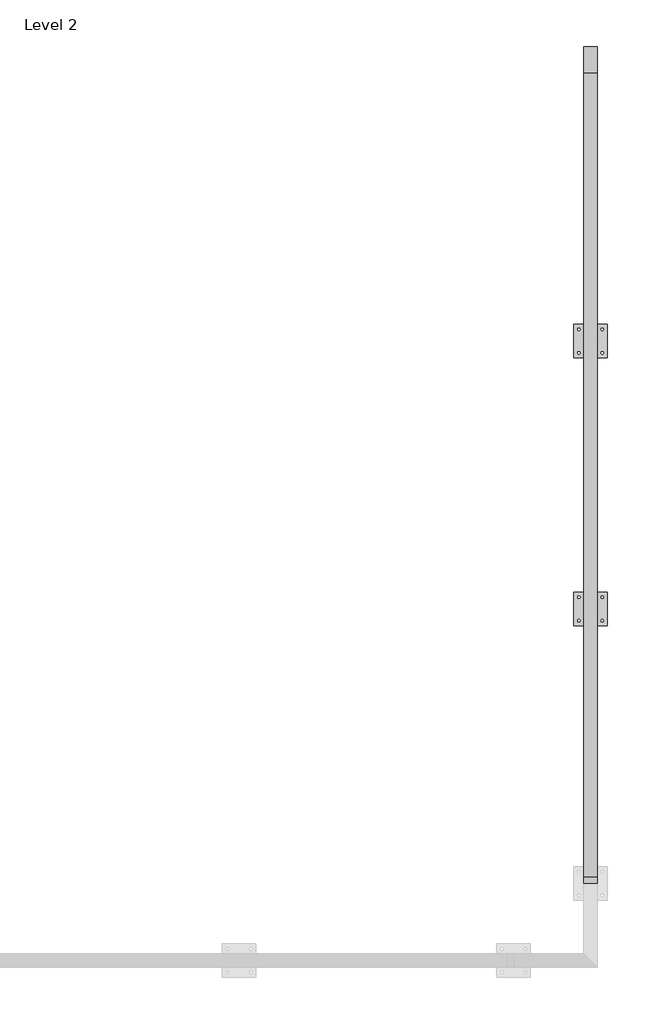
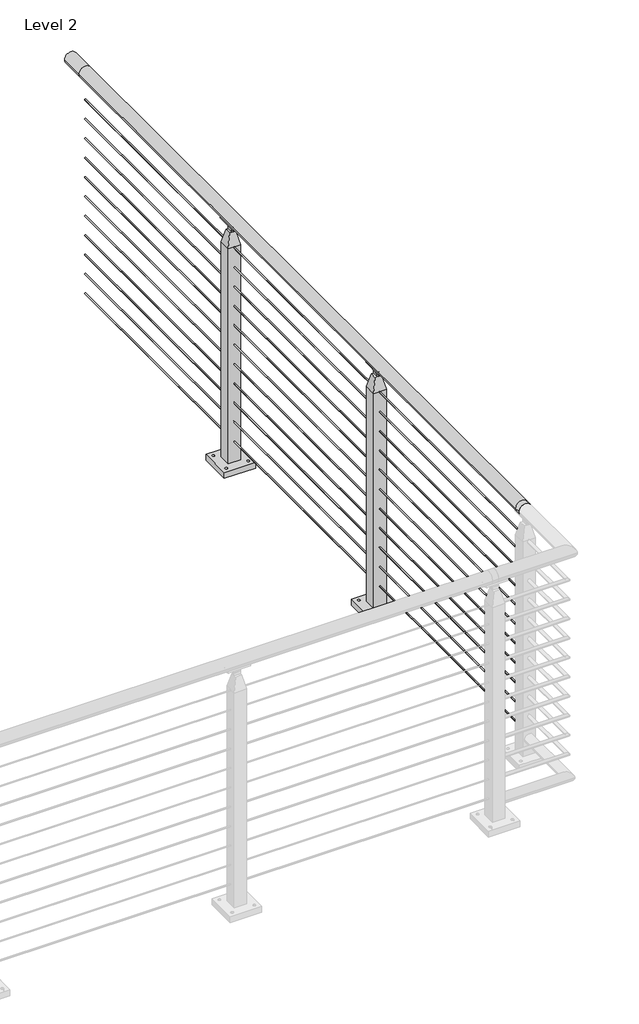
# One storey, part 10 of 17: 1 railing.
"""IFC4 building model written with IfcOpenShell, lengths in millimetres."""

import ifcopenshell
import ifcopenshell.guid

model = None  # the IFC model being written
_history = None  # IfcOwnerHistory: only IFC2X3 demands one
_inside = {}  # id of a spatial element -> (the spatial element, [elements in it])
_under = {}  # id of a project, library or spatial element -> (it, [spatial elements below it])
_declared = {}  # id of a project -> (the project, [libraries it declares])
_typed = {}  # id of a type object -> (the type object, [elements of that type])
_made_of = {}  # id of a material, layer set ... -> (it, [elements and type objects made of it])


def new_model(schema):
    """Start an empty IFC model of exactly this schema.

    Asked for "IFC4X3", IfcOpenShell would pick the latest addendum, in which some entities
    have other attributes; the version numbers below select the first issue.
    IFC2X3 requires an IfcOwnerHistory on every rooted entity: one is made here for all.
    """
    global model, _history
    if schema == "IFC4X3":
        model = ifcopenshell.file(schema_version=(4, 3, 0, 0))
    else:
        model = ifcopenshell.file(schema=schema)
    _inside.clear()
    _under.clear()
    _declared.clear()
    _typed.clear()
    _made_of.clear()
    _history = None
    if model.schema == "IFC2X3":
        org = make("IfcOrganization", Name="unknown")
        user = make(
            "IfcPersonAndOrganization",
            ThePerson=make("IfcPerson", FamilyName="unknown"),
            TheOrganization=org,
        )
        app = make(
            "IfcApplication",
            ApplicationDeveloper=org,
            Version="unknown",
            ApplicationFullName="unknown",
            ApplicationIdentifier="unknown",
        )
        _history = make(
            "IfcOwnerHistory",
            OwningUser=user,
            OwningApplication=app,
            ChangeAction="ADDED",
            CreationDate=0,
        )
    return model


def make(cls, **values):
    """One entity of the class cls with the attributes given. An attribute that is None is left unset."""
    return model.create_entity(
        cls, **{name: value for name, value in values.items() if value is not None}
    )


def rooted(cls, **values):
    """An entity with a GlobalId (a new one), such as an element, a storey or a relation."""
    return make(cls, GlobalId=ifcopenshell.guid.new(), OwnerHistory=_history, **values)


def si_unit(unit_type, name, prefix=None):
    """IfcSIUnit, for example si_unit("LENGTHUNIT", "METRE", prefix="MILLI")."""
    return make("IfcSIUnit", UnitType=unit_type, Prefix=prefix, Name=name)


def assignment(units):
    """IfcUnitAssignment: the units of a project."""
    return None if units is None else make("IfcUnitAssignment", Units=units)


def point(xyz):
    """IfcCartesianPoint."""
    return None if xyz is None else make("IfcCartesianPoint", Coordinates=xyz)


def direction(xyz):
    """IfcDirection."""
    return None if xyz is None else make("IfcDirection", DirectionRatios=xyz)


def frame(location, z_axis=None, x_axis=None):
    """IfcAxis2Placement3D, a coordinate frame: its origin and axes. An axis left out is left unset."""
    return make(
        "IfcAxis2Placement3D",
        Location=point(location),
        Axis=direction(z_axis),
        RefDirection=direction(x_axis),
    )


def frame_2d(location, x_axis=None):
    """IfcAxis2Placement2D, a coordinate frame in the plane: its origin and x axis."""
    return make(
        "IfcAxis2Placement2D", Location=point(location), RefDirection=direction(x_axis)
    )


def origin():
    """The frame at (0, 0, 0) with its axes left unset."""
    return frame((0.0, 0.0, 0.0))


def place(relative_to, where):
    """IfcLocalPlacement: puts the frame where relative to a parent placement (None: the world)."""
    return make(
        "IfcLocalPlacement", PlacementRelTo=relative_to, RelativePlacement=where
    )


def context(
    kind, dimensions, precision=None, world=None, true_north=None, identifier=None
):
    """IfcGeometricRepresentationContext, for example the 3D "Model" context."""
    return make(
        "IfcGeometricRepresentationContext",
        ContextIdentifier=identifier,
        ContextType=kind,
        CoordinateSpaceDimension=dimensions,
        Precision=precision,
        WorldCoordinateSystem=world,
        TrueNorth=true_north,
    )


def project(units=None, contexts=None):
    """IfcProject with its units and contexts."""
    return rooted(
        "IfcProject",
        Name="project",
        RepresentationContexts=contexts,
        UnitsInContext=assignment(units),
    )


def spatial(cls, under=None, at=None, **own):
    """A site, building, storey or space (cls), placed at a placement, below another one or the project."""
    s = rooted(cls, ObjectPlacement=at, **own)
    if under is not None:
        _under.setdefault(under.id(), (under, []))[1].append(s)
    return s


def polyline(points):
    """IfcPolyline through the points."""
    return make("IfcPolyline", Points=[point(p) for p in points])


def circle_curve(where, radius):
    """IfcCircle in the frame where."""
    return make("IfcCircle", Position=where, Radius=radius)


def trimmed(basis, trim1, trim2, sense, master):
    """IfcTrimmedCurve: the piece of a basis curve between two trims."""
    return make(
        "IfcTrimmedCurve",
        BasisCurve=basis,
        Trim1=trim1,
        Trim2=trim2,
        SenseAgreement=sense,
        MasterRepresentation=master,
    )


def segment(curve, same_sense, transition):
    """IfcCompositeCurveSegment."""
    return make(
        "IfcCompositeCurveSegment",
        Transition=transition,
        SameSense=same_sense,
        ParentCurve=curve,
    )


def composite_curve(segments, self_intersect=None):
    """IfcCompositeCurve: segments joined end to end."""
    return make("IfcCompositeCurve", Segments=segments, SelfIntersect=self_intersect)


def outline(outer, holes=None, kind="AREA"):
    """IfcArbitraryClosedProfileDef: a profile drawn as a closed curve; with holes, ...WithVoids."""
    if holes is None:
        return make("IfcArbitraryClosedProfileDef", ProfileType=kind, OuterCurve=outer)
    return make(
        "IfcArbitraryProfileDefWithVoids",
        ProfileType=kind,
        OuterCurve=outer,
        InnerCurves=holes,
    )


def extrude(swept, where, along, depth):
    """IfcExtrudedAreaSolid: the profile swept, set in the frame where, extruded along a direction by depth."""
    return make(
        "IfcExtrudedAreaSolid",
        SweptArea=swept,
        Position=where,
        ExtrudedDirection=direction(along),
        Depth=depth,
    )


def faces_of(points, faces, orient=None, outer=None):
    """IfcFace entities. A face is a list of loops; a loop is a list of indices into points, from 0.

    orient and outer hold one flag for each loop. By default every Orientation is true, the
    first loop of a face is its IfcFaceOuterBound and the others are IfcFaceBound.
    """
    made = []
    for i, loops in enumerate(faces):
        bounds = []
        for j, loop in enumerate(loops):
            is_outer = j == 0 if outer is None else outer[i][j]
            bounds.append(
                make(
                    "IfcFaceOuterBound" if is_outer else "IfcFaceBound",
                    Bound=make("IfcPolyLoop", Polygon=[points[k] for k in loop]),
                    Orientation=True if orient is None else orient[i][j],
                )
            )
        made.append(make("IfcFace", Bounds=bounds))
    return made


def faceted_brep(points, faces, orient=None, outer=None, voids=None):
    """IfcFacetedBrep: a solid bounded by flat faces; with voids (closed shells), ...WithVoids."""
    shared = [point(p) for p in points]
    hull = make("IfcClosedShell", CfsFaces=faces_of(shared, faces, orient, outer))
    if voids is None:
        return make("IfcFacetedBrep", Outer=hull)
    return make(
        "IfcFacetedBrepWithVoids",
        Outer=hull,
        Voids=[
            make(cls, CfsFaces=faces_of(shared, fs, o, b)) for cls, fs, o, b in voids
        ],
    )


def shape(context_of_items, identifier, shape_type, items):
    """IfcShapeRepresentation: the items that make up one representation, for example the "Body"."""
    return make(
        "IfcShapeRepresentation",
        ContextOfItems=context_of_items,
        RepresentationIdentifier=identifier,
        RepresentationType=shape_type,
        Items=items,
    )


def made_of(thing, what):
    """Note that an element or type object is made of a material, layer set ...; save() writes the relation."""
    if what is not None:
        _made_of.setdefault(what.id(), (what, []))[1].append(thing)
    return thing


def element(
    cls,
    number,
    at=None,
    inside=None,
    cuts=None,
    type_object=None,
    material=None,
    context=None,
    identifier="Body",
    shape_type=None,
    held_by="IfcProductDefinitionShape",
    body=None,
    shapes=None,
    **own,
):
    """One element of the class cls, such as IfcWall. Its Tag is "e" and its number.

    at: its placement. inside: the storey or other place that contains it. cuts: it is an
    opening in that element (IfcRelVoidsElement). A single representation is given by context,
    identifier, shape_type and body (its items); several are given by shapes. held_by: the class
    of the entity that holds the representations. save() writes the other relations.
    """
    e = rooted(cls, Tag="e%d" % number, ObjectPlacement=at, **own)
    if body is not None:
        shapes = [shape(context, identifier, shape_type, body)]
    if shapes is not None:
        e.Representation = make(held_by, Representations=shapes)
    if inside is not None:
        _inside.setdefault(inside.id(), (inside, []))[1].append(e)
    if cuts is not None:
        rooted(
            "IfcRelVoidsElement", RelatingBuildingElement=cuts, RelatedOpeningElement=e
        )
    if type_object is not None:
        _typed.setdefault(type_object.id(), (type_object, []))[1].append(e)
    return made_of(e, material)


def aggregate(whole, parts):
    """IfcRelAggregates: a whole, such as a stair, and the parts it consists of."""
    return rooted("IfcRelAggregates", RelatingObject=whole, RelatedObjects=parts)


def save(model, path):
    """Write the relations noted so far, then the file.

    IfcRelAggregates (storeys below a building ...), IfcRelContainedInSpatialStructure (elements
    in a storey), IfcRelDefinesByType, IfcRelAssociatesMaterial and IfcRelDeclares: one each for
    every whole, place, type object, material and project.
    """
    for whole, parts in _under.values():
        aggregate(whole, parts)
    for where, things in _inside.values():
        rooted(
            "IfcRelContainedInSpatialStructure",
            RelatedElements=things,
            RelatingStructure=where,
        )
    for kind, things in _typed.values():
        rooted("IfcRelDefinesByType", RelatedObjects=things, RelatingType=kind)
    for what, things in _made_of.values():
        rooted("IfcRelAssociatesMaterial", RelatedObjects=things, RelatingMaterial=what)
    for by, libraries in _declared.values():
        rooted("IfcRelDeclares", RelatingContext=by, RelatedDefinitions=libraries)
    model.write(path)


def plane_surface(at):
    """IfcPlane: the flat surface through the origin of the frame at, square to its z axis."""
    return make("IfcPlane", Position=at)


def cylinder_surface(at, radius):
    """IfcCylindricalSurface: all points at the distance radius from the z axis of the frame at."""
    return make("IfcCylindricalSurface", Position=at, Radius=radius)


def revolved_surface(curve, axis_point, axis_direction):
    """IfcSurfaceOfRevolution: the curve turned about the line through axis_point along axis_direction."""
    return make(
        "IfcSurfaceOfRevolution",
        SweptCurve=make("IfcArbitraryOpenProfileDef", ProfileType="CURVE", Curve=curve),
        AxisPosition=make("IfcAxis1Placement", Location=point(axis_point), Axis=direction(axis_direction)),
    )


def advanced_brep(points, edges, surfaces, faces):
    """IfcAdvancedBrep: a solid bounded by faces that lie on surfaces and meet in shared edges.

    An edge is (start, end): straight between two places in points (the first is 0);
    or (start, end, curve); or (start, end, curve, False) where it runs against its curve.
    A face is (place in surfaces, loops), or (place, loops, False) where it looks against
    its surface's normal. A loop lists edges by number (the first is 1), with a minus sign
    where the edge is run from its end to its start. The first loop is the outer one.
    """
    corners = [point(p) for p in points]
    vertices = [make("IfcVertexPoint", VertexGeometry=c) for c in corners]
    made = []
    for start, end, *more in edges:
        made.append(
            make(
                "IfcEdgeCurve",
                EdgeStart=vertices[start],
                EdgeEnd=vertices[end],
                EdgeGeometry=more[0] if more else make("IfcPolyline", Points=[corners[start], corners[end]]),
                SameSense=more[1] if len(more) > 1 else True,
            )
        )
    hull = []
    for where, loops, *sense in faces:
        bounds = []
        for j, loop in enumerate(loops):
            ring = [make("IfcOrientedEdge", EdgeElement=made[abs(k) - 1], Orientation=k > 0) for k in loop]
            bounds.append(
                make(
                    "IfcFaceOuterBound" if j == 0 else "IfcFaceBound",
                    Bound=make("IfcEdgeLoop", EdgeList=ring),
                    Orientation=True,
                )
            )
        hull.append(make("IfcAdvancedFace", Bounds=bounds, FaceSurface=surfaces[where], SameSense=sense[0] if sense else True))
    return make("IfcAdvancedBrep", Outer=make("IfcClosedShell", CfsFaces=hull))


model = new_model("IFC4")

# Units and contexts
model_context = context("Model", 3, world=origin())
ifc_project = project(units=[si_unit("LENGTHUNIT", "METRE", prefix="MILLI")], contexts=[model_context])

# Site, building, storey
site = spatial("IfcSite", under=ifc_project)
building = spatial("IfcBuilding", under=site)
storey = spatial("IfcBuildingStorey", under=building, Name="Level 2", Elevation=3048.0)

# Railing
placement = place(None, origin())
element("IfcRailing", 1, ObjectType="VIVA-CUBE-Cable-Floor Mount-Straight", at=placement, inside=storey, context=model_context, shape_type="SolidModel", body=[
    advanced_brep(
    [(20884.4199014, -51786.8457415, 4102.1), (20935.2199014, -51786.8457415, 4102.1), (20935.2199014, -48738.8457415, 4102.1), (20884.4199014, -48738.8457415, 4102.1), (20935.2199014, -51812.6426165, 4102.1), (20884.4199014, -51812.6426165, 4102.1), (20935.2199014, -48637.2457415, 4102.1), (20884.4199014, -48637.2457415, 4102.1)],
    [
        (0, 1, circle_curve(frame((20909.8199014, -51786.8457415, 4102.1), z_axis=(0.0, 1.0, 0.0), x_axis=(-1.0, 0.0, 0.0)), 25.4)),
        (1, 2),
        (2, 3, circle_curve(frame((20909.8199014, -48738.8457415, 4102.1), z_axis=(0.0, -1.0, 0.0), x_axis=(-1.0, 0.0, 0.0)), 25.4)),
        (3, 0),
        (1, 0, circle_curve(frame((20909.8199014, -51786.8457415, 4102.1), z_axis=(0.0, 1.0, 0.0), x_axis=(-1.0, 0.0, 0.0)), 25.4)),
        (3, 2, circle_curve(frame((20909.8199014, -48738.8457415, 4102.1), z_axis=(0.0, -1.0, 0.0), x_axis=(-1.0, 0.0, 0.0)), 25.4)),
        (4, 5, circle_curve(frame((20909.8199014, -51812.6426165, 4102.1), z_axis=(0.0, -1.0, 0.0), x_axis=(-1.0, 0.0, 0.0)), 25.4)),
        (5, 4, circle_curve(frame((20909.8199014, -51812.6426165, 4102.1), z_axis=(0.0, -1.0, 0.0), x_axis=(-1.0, 0.0, 0.0)), 25.4)),
        (4, 1),
        (0, 5),
        (6, 7, circle_curve(frame((20909.8199014, -48637.2457415, 4102.1), z_axis=(0.0, 1.0, 0.0), x_axis=(-1.0, 0.0, 0.0)), 25.4)),
        (7, 6, circle_curve(frame((20909.8199014, -48637.2457415, 4102.1), z_axis=(0.0, 1.0, 0.0), x_axis=(-1.0, 0.0, 0.0)), 25.4)),
        (2, 6),
        (7, 3),
    ],
    [
        cylinder_surface(frame((20909.8199014, -51786.8457415, 4102.1), z_axis=(0.0, -1.0, 0.0), x_axis=(-1.0, 0.0, 0.0)), 25.4),
        plane_surface(frame((20909.8199014, -51812.6426165, 4127.5), z_axis=(0.0, -1.0, 0.0), x_axis=(0.0, 0.0, 1.0))),
        cylinder_surface(frame((20909.8199014, -51812.6426165, 4102.1), z_axis=(0.0, -1.0, 0.0), x_axis=(-1.0, 0.0, 0.0)), 25.4),
        plane_surface(frame((20909.8199014, -48637.2457415, 4127.5), z_axis=(0.0, 1.0, 0.0), x_axis=(0.0, 0.0, 1.0))),
        cylinder_surface(frame((20909.8199014, -48738.8457415, 4102.1), z_axis=(0.0, -1.0, 0.0), x_axis=(-1.0, 0.0, 0.0)), 25.4),
    ],
    [
        (0, [[1, 2, 3, 4]]),
        (0, [[5, -4, 6, -2]]),
        (1, [[7, 8]]),
        (2, [[-7, 9, -1, 10]]),
        (2, [[-8, -10, -5, -9]]),
        (3, [[11, 12]]),
        (4, [[-3, 13, -12, 14]]),
        (4, [[-6, -14, -11, -13]]),
    ],
),
    extrude(outline(composite_curve([segment(trimmed(circle_curve(frame_2d((3985.4124, 20909.8199014)), 2.3876), [point((3985.4124, 20907.4323014))], [point((3985.4124, 20912.2075014))], False, "CARTESIAN"), True, "CONTINUOUS"), segment(trimmed(circle_curve(frame_2d((3985.4124, 20909.8199014)), 2.3876), [point((3985.4124, 20912.2075014))], [point((3985.4124, 20907.4323014))], False, "CARTESIAN"), True, "CONTINUOUS")], self_intersect=False)), frame((0.0, -51786.8457415, 0.0), z_axis=(0.0, 1.0, 0.0), x_axis=(0.0, 0.0, 1.0)), (0.0, 0.0, 1.0), 3048.0),
    extrude(outline(composite_curve([segment(trimmed(circle_curve(frame_2d((3902.8624, 20909.8199014)), 2.3876), [point((3902.8624, 20907.4323014))], [point((3902.8624, 20912.2075014))], False, "CARTESIAN"), True, "CONTINUOUS"), segment(trimmed(circle_curve(frame_2d((3902.8624, 20909.8199014)), 2.3876), [point((3902.8624, 20912.2075014))], [point((3902.8624, 20907.4323014))], False, "CARTESIAN"), True, "CONTINUOUS")], self_intersect=False)), frame((0.0, -51786.8457415, 0.0), z_axis=(0.0, 1.0, 0.0), x_axis=(0.0, 0.0, 1.0)), (0.0, 0.0, 1.0), 3048.0),
    extrude(outline(composite_curve([segment(trimmed(circle_curve(frame_2d((3820.3124, 20909.8199014)), 2.3876), [point((3820.3124, 20907.4323014))], [point((3820.3124, 20912.2075014))], False, "CARTESIAN"), True, "CONTINUOUS"), segment(trimmed(circle_curve(frame_2d((3820.3124, 20909.8199014)), 2.3876), [point((3820.3124, 20912.2075014))], [point((3820.3124, 20907.4323014))], False, "CARTESIAN"), True, "CONTINUOUS")], self_intersect=False)), frame((0.0, -51786.8457415, 0.0), z_axis=(0.0, 1.0, 0.0), x_axis=(0.0, 0.0, 1.0)), (0.0, 0.0, 1.0), 3048.0),
    extrude(outline(composite_curve([segment(trimmed(circle_curve(frame_2d((3737.7624, 20909.8199014)), 2.3876), [point((3737.7624, 20907.4323014))], [point((3737.7624, 20912.2075014))], False, "CARTESIAN"), True, "CONTINUOUS"), segment(trimmed(circle_curve(frame_2d((3737.7624, 20909.8199014)), 2.3876), [point((3737.7624, 20912.2075014))], [point((3737.7624, 20907.4323014))], False, "CARTESIAN"), True, "CONTINUOUS")], self_intersect=False)), frame((0.0, -51786.8457415, 0.0), z_axis=(0.0, 1.0, 0.0), x_axis=(0.0, 0.0, 1.0)), (0.0, 0.0, 1.0), 3048.0),
    extrude(outline(composite_curve([segment(trimmed(circle_curve(frame_2d((3655.2124, 20909.8199014)), 2.3876), [point((3655.2124, 20907.4323014))], [point((3655.2124, 20912.2075014))], False, "CARTESIAN"), True, "CONTINUOUS"), segment(trimmed(circle_curve(frame_2d((3655.2124, 20909.8199014)), 2.3876), [point((3655.2124, 20912.2075014))], [point((3655.2124, 20907.4323014))], False, "CARTESIAN"), True, "CONTINUOUS")], self_intersect=False)), frame((0.0, -51786.8457415, 0.0), z_axis=(0.0, 1.0, 0.0), x_axis=(0.0, 0.0, 1.0)), (0.0, 0.0, 1.0), 3048.0),
    extrude(outline(composite_curve([segment(trimmed(circle_curve(frame_2d((3572.6624, 20909.8199014)), 2.3876), [point((3572.6624, 20907.4323014))], [point((3572.6624, 20912.2075014))], False, "CARTESIAN"), True, "CONTINUOUS"), segment(trimmed(circle_curve(frame_2d((3572.6624, 20909.8199014)), 2.3876), [point((3572.6624, 20912.2075014))], [point((3572.6624, 20907.4323014))], False, "CARTESIAN"), True, "CONTINUOUS")], self_intersect=False)), frame((0.0, -51786.8457415, 0.0), z_axis=(0.0, 1.0, 0.0), x_axis=(0.0, 0.0, 1.0)), (0.0, 0.0, 1.0), 3048.0),
    extrude(outline(composite_curve([segment(trimmed(circle_curve(frame_2d((3490.1124, 20909.8199014)), 2.3876), [point((3490.1124, 20907.4323014))], [point((3490.1124, 20912.2075014))], False, "CARTESIAN"), True, "CONTINUOUS"), segment(trimmed(circle_curve(frame_2d((3490.1124, 20909.8199014)), 2.3876), [point((3490.1124, 20912.2075014))], [point((3490.1124, 20907.4323014))], False, "CARTESIAN"), True, "CONTINUOUS")], self_intersect=False)), frame((0.0, -51786.8457415, 0.0), z_axis=(0.0, 1.0, 0.0), x_axis=(0.0, 0.0, 1.0)), (0.0, 0.0, 1.0), 3048.0),
    extrude(outline(composite_curve([segment(trimmed(circle_curve(frame_2d((3407.5624, 20909.8199014)), 2.3876), [point((3407.5624, 20907.4323014))], [point((3407.5624, 20912.2075014))], False, "CARTESIAN"), True, "CONTINUOUS"), segment(trimmed(circle_curve(frame_2d((3407.5624, 20909.8199014)), 2.3876), [point((3407.5624, 20912.2075014))], [point((3407.5624, 20907.4323014))], False, "CARTESIAN"), True, "CONTINUOUS")], self_intersect=False)), frame((0.0, -51786.8457415, 0.0), z_axis=(0.0, 1.0, 0.0), x_axis=(0.0, 0.0, 1.0)), (0.0, 0.0, 1.0), 3048.0),
    extrude(outline(composite_curve([segment(trimmed(circle_curve(frame_2d((3325.0124, 20909.8199014)), 2.3876), [point((3325.0124, 20907.4323014))], [point((3325.0124, 20912.2075014))], False, "CARTESIAN"), True, "CONTINUOUS"), segment(trimmed(circle_curve(frame_2d((3325.0124, 20909.8199014)), 2.3876), [point((3325.0124, 20912.2075014))], [point((3325.0124, 20907.4323014))], False, "CARTESIAN"), True, "CONTINUOUS")], self_intersect=False)), frame((0.0, -51786.8457415, 0.0), z_axis=(0.0, 1.0, 0.0), x_axis=(0.0, 0.0, 1.0)), (0.0, 0.0, 1.0), 3048.0),
    extrude(outline(composite_curve([segment(trimmed(circle_curve(frame_2d((3242.4624, 20909.8199014)), 2.3876), [point((3242.4624, 20907.4323014))], [point((3242.4624, 20912.2075014))], False, "CARTESIAN"), True, "CONTINUOUS"), segment(trimmed(circle_curve(frame_2d((3242.4624, 20909.8199014)), 2.3876), [point((3242.4624, 20912.2075014))], [point((3242.4624, 20907.4323014))], False, "CARTESIAN"), True, "CONTINUOUS")], self_intersect=False)), frame((0.0, -51786.8457415, 0.0), z_axis=(0.0, 1.0, 0.0), x_axis=(0.0, 0.0, 1.0)), (0.0, 0.0, 1.0), 3048.0),
    extrude(outline(composite_curve([segment(trimmed(circle_curve(frame_2d((3159.9124, 20909.8199014)), 2.3876), [point((3159.9124, 20907.4323014))], [point((3159.9124, 20912.2075014))], False, "CARTESIAN"), True, "CONTINUOUS"), segment(trimmed(circle_curve(frame_2d((3159.9124, 20909.8199014)), 2.3876), [point((3159.9124, 20912.2075014))], [point((3159.9124, 20907.4323014))], False, "CARTESIAN"), True, "CONTINUOUS")], self_intersect=False)), frame((0.0, -51786.8457415, 0.0), z_axis=(0.0, 1.0, 0.0), x_axis=(0.0, 0.0, 1.0)), (0.0, 0.0, 1.0), 3048.0),
    extrude(outline(polyline([(20846.3199014, -49690.9488665), (20973.3199014, -49690.9488665), (20973.3199014, -49817.9488665), (20846.3199014, -49817.9488665), (20846.3199014, -49690.9488665)]), holes=[composite_curve([segment(trimmed(circle_curve(frame_2d((20954.2699014, -49798.8988665)), 4.7625), [point((20959.0324014, -49798.8988665))], [point((20949.5074014, -49798.8988665))], True, "CARTESIAN"), True, "CONTINUOUS"), segment(trimmed(circle_curve(frame_2d((20954.2699014, -49798.8988665)), 4.7625), [point((20949.5074014, -49798.8988665))], [point((20959.0324014, -49798.8988665))], True, "CARTESIAN"), True, "CONTINUOUS")], self_intersect=False), composite_curve([segment(trimmed(circle_curve(frame_2d((20865.3699014, -49798.8988665)), 4.7625), [point((20870.1324014, -49798.8988665))], [point((20860.6074014, -49798.8988665))], True, "CARTESIAN"), True, "CONTINUOUS"), segment(trimmed(circle_curve(frame_2d((20865.3699014, -49798.8988665)), 4.7625), [point((20860.6074014, -49798.8988665))], [point((20870.1324014, -49798.8988665))], True, "CARTESIAN"), True, "CONTINUOUS")], self_intersect=False), composite_curve([segment(trimmed(circle_curve(frame_2d((20954.2699014, -49709.9988665)), 4.7625), [point((20959.0324014, -49709.9988665))], [point((20949.5074014, -49709.9988665))], True, "CARTESIAN"), True, "CONTINUOUS"), segment(trimmed(circle_curve(frame_2d((20954.2699014, -49709.9988665)), 4.7625), [point((20949.5074014, -49709.9988665))], [point((20959.0324014, -49709.9988665))], True, "CARTESIAN"), True, "CONTINUOUS")], self_intersect=False), composite_curve([segment(trimmed(circle_curve(frame_2d((20865.3699014, -49709.9988665)), 4.7625), [point((20870.1324014, -49709.9988665))], [point((20860.6074014, -49709.9988665))], True, "CARTESIAN"), True, "CONTINUOUS"), segment(trimmed(circle_curve(frame_2d((20865.3699014, -49709.9988665)), 4.7625), [point((20860.6074014, -49709.9988665))], [point((20870.1324014, -49709.9988665))], True, "CARTESIAN"), True, "CONTINUOUS")], self_intersect=False)]), frame((0.0, 0.0, 3048.0), z_axis=(0.0, 0.0, 1.0), x_axis=(1.0, 0.0, 0.0)), (0.0, 0.0, 1.0), 25.4),
    faceted_brep([(20897.1199014, -49741.7488665, 4045.2902749), (20897.1199014, -49767.1488665, 4045.2902749), (20905.8511514, -49767.1488665, 4045.2902749), (20905.8511514, -49741.7488665, 4045.2902749), (20922.5199014, -49767.1488665, 4045.2902749), (20922.5199014, -49741.7488665, 4045.2902749), (20913.7886514, -49741.7488665, 4045.2902749), (20913.7886514, -49767.1488665, 4045.2902749), (20884.4199014, -49729.0488665, 3989.1347854), (20935.2199014, -49729.0488665, 3989.1347854), (20884.4199014, -49779.8488665, 3989.1347854), (20935.2199014, -49779.8488665, 3989.1347854), (20884.4199014, -49729.0488665, 3073.4), (20935.2199014, -49729.0488665, 3073.4), (20935.2199014, -49779.8488665, 3073.4), (20884.4199014, -49779.8488665, 3073.4), (20913.7886514, -49767.1488665, 4057.3306013), (20913.7886514, -49741.7488665, 4057.3306013), (20905.8511514, -49741.7488665, 4057.3306013), (20905.8511514, -49767.1488665, 4057.3306013)], [[[0, 1, 2, 3]], [[4, 5, 6, 7]], [[8, 0, 3, 6, 5, 9]], [[1, 0, 8, 10]], [[1, 10, 11, 4, 7, 2]], [[5, 4, 11, 9]], [[12, 13, 14, 15]], [[12, 15, 10, 8]], [[15, 14, 11, 10]], [[14, 13, 9, 11]], [[13, 12, 8, 9]], [[16, 17, 18, 19]], [[17, 16, 7, 6]], [[18, 17, 6, 3]], [[19, 18, 3, 2]], [[16, 19, 2, 7]]]),
    extrude(outline(composite_curve([segment(trimmed(circle_curve(frame_2d((4102.1433184, 20909.723173)), 25.4345159), [point((4080.0284941, 20922.2869759))], [point((4079.9335733, 20897.3279392))], True, "CARTESIAN"), True, "CONTINUOUS"), segment(trimmed(circle_curve(frame_2d((4077.4310885, 20896.0832861)), 2.7949225), [point((4079.9335733, 20897.3279392))], [point((4075.0585031, 20894.605981))], False, "CARTESIAN"), True, "CONTINUOUS"), segment(trimmed(circle_curve(frame_2d((4102.905945, 20909.8566361)), 31.75), [point((4075.0585031, 20894.605981))], [point((4075.6392616, 20926.1228733))], False, "CARTESIAN"), True, "CONTINUOUS"), segment(trimmed(circle_curve(frame_2d((4077.5101807, 20923.8345335)), 2.9558141), [point((4075.6392616, 20926.1228733))], [point((4080.0284941, 20922.2869759))], False, "CARTESIAN"), True, "CONTINUOUS")], self_intersect=False)), frame((0.0, -49799.6862665, 0.0), z_axis=(0.0, 1.0, 0.0), x_axis=(0.0, 0.0, 1.0)), (0.0, 0.0, 1.0), 90.4748),
    advanced_brep(
    [(20907.2799014, -49727.3809517, 4071.3685171), (20907.2799014, -49741.7488665, 4057.0006022), (20907.2799014, -49767.1488665, 4057.0006022), (20907.2799014, -49781.5167814, 4071.3685171), (20912.3599014, -49727.3809517, 4071.3685171), (20912.3599014, -49781.5167814, 4071.3685171), (20912.3599014, -49767.1488665, 4057.0006022), (20912.3599014, -49741.7488665, 4057.0006022)],
    [
        (0, 1, circle_curve(frame((20907.2799014, -49727.3809517, 4057.0006022), z_axis=(1.0, 0.0, 0.0), x_axis=(0.0, -1.0, 0.0)), 14.3679149)),
        (1, 2, circle_curve(frame((20907.2799014, -49754.4488665, 4057.0006022), z_axis=(-1.0, 0.0, 0.0), x_axis=(0.0, -1.0, 0.0)), 12.7)),
        (2, 3, circle_curve(frame((20907.2799014, -49781.5167814, 4057.0006022), z_axis=(1.0, 0.0, 0.0), x_axis=(0.0, -1.0, 0.0)), 14.3679149)),
        (3, 0),
        (4, 5),
        (5, 6, circle_curve(frame((20912.3599014, -49781.5167814, 4057.0006022), z_axis=(-1.0, 0.0, 0.0), x_axis=(0.0, -1.0, 0.0)), 14.3679149)),
        (6, 7, circle_curve(frame((20912.3599014, -49754.4488665, 4057.0006022), z_axis=(1.0, 0.0, 0.0), x_axis=(0.0, -1.0, 0.0)), 12.7)),
        (7, 4, circle_curve(frame((20912.3599014, -49727.3809517, 4057.0006022), z_axis=(-1.0, 0.0, 0.0), x_axis=(0.0, -1.0, 0.0)), 14.3679149)),
        (0, 4),
        (7, 1),
        (6, 2),
        (5, 3),
    ],
    [
        plane_surface(frame((20907.2799014, -49741.7488665, 4057.0006022), z_axis=(-1.0, 0.0, 0.0), x_axis=(0.0, 0.0, -1.0))),
        plane_surface(frame((20912.3599014, -49741.7488665, 4057.0006022), z_axis=(1.0, 0.0, 0.0), x_axis=(0.0, 0.0, 1.0))),
        revolved_surface(polyline([(20912.3599014, -49741.7488666, 4057.0006022), (20907.2799014, -49741.7488666, 4057.0006022)]), (20912.3599014, -49727.3809517, 4057.0006022), (1.0, 0.0, 0.0)),
        cylinder_surface(frame((20912.3599014, -49754.4488665, 4057.0006022), z_axis=(-1.0, 0.0, 0.0), x_axis=(0.0, -1.0, 0.0)), 12.7),
        revolved_surface(polyline([(20912.3599014, -49795.8846963, 4057.0006022), (20907.2799014, -49795.8846963, 4057.0006022)]), (20912.3599014, -49781.5167814, 4057.0006022), (1.0, 0.0, 0.0)),
        plane_surface(frame((20907.2799014, -49781.5167814, 4071.3685171), z_axis=(0.0, 0.0, 1.0), x_axis=(1.0, 0.0, 0.0))),
    ],
    [
        (0, [[1, 2, 3, 4]]),
        (1, [[5, 6, 7, 8]]),
        (2, [[-1, 9, -8, 10]]),
        (3, [[-2, -10, -7, 11]]),
        (4, [[-3, -11, -6, 12]]),
        (5, [[-4, -12, -5, -9]]),
    ],
),
    extrude(outline(polyline([(20846.3199014, -50706.9488665), (20973.3199014, -50706.9488665), (20973.3199014, -50833.9488665), (20846.3199014, -50833.9488665), (20846.3199014, -50706.9488665)]), holes=[composite_curve([segment(trimmed(circle_curve(frame_2d((20954.2699014, -50814.8988665)), 4.7625), [point((20959.0324014, -50814.8988665))], [point((20949.5074014, -50814.8988665))], True, "CARTESIAN"), True, "CONTINUOUS"), segment(trimmed(circle_curve(frame_2d((20954.2699014, -50814.8988665)), 4.7625), [point((20949.5074014, -50814.8988665))], [point((20959.0324014, -50814.8988665))], True, "CARTESIAN"), True, "CONTINUOUS")], self_intersect=False), composite_curve([segment(trimmed(circle_curve(frame_2d((20865.3699014, -50814.8988665)), 4.7625), [point((20870.1324014, -50814.8988665))], [point((20860.6074014, -50814.8988665))], True, "CARTESIAN"), True, "CONTINUOUS"), segment(trimmed(circle_curve(frame_2d((20865.3699014, -50814.8988665)), 4.7625), [point((20860.6074014, -50814.8988665))], [point((20870.1324014, -50814.8988665))], True, "CARTESIAN"), True, "CONTINUOUS")], self_intersect=False), composite_curve([segment(trimmed(circle_curve(frame_2d((20954.2699014, -50725.9988665)), 4.7625), [point((20959.0324014, -50725.9988665))], [point((20949.5074014, -50725.9988665))], True, "CARTESIAN"), True, "CONTINUOUS"), segment(trimmed(circle_curve(frame_2d((20954.2699014, -50725.9988665)), 4.7625), [point((20949.5074014, -50725.9988665))], [point((20959.0324014, -50725.9988665))], True, "CARTESIAN"), True, "CONTINUOUS")], self_intersect=False), composite_curve([segment(trimmed(circle_curve(frame_2d((20865.3699014, -50725.9988665)), 4.7625), [point((20870.1324014, -50725.9988665))], [point((20860.6074014, -50725.9988665))], True, "CARTESIAN"), True, "CONTINUOUS"), segment(trimmed(circle_curve(frame_2d((20865.3699014, -50725.9988665)), 4.7625), [point((20860.6074014, -50725.9988665))], [point((20870.1324014, -50725.9988665))], True, "CARTESIAN"), True, "CONTINUOUS")], self_intersect=False)]), frame((0.0, 0.0, 3048.0), z_axis=(0.0, 0.0, 1.0), x_axis=(1.0, 0.0, 0.0)), (0.0, 0.0, 1.0), 25.4),
    faceted_brep([(20897.1199014, -50757.7488665, 4045.2902749), (20897.1199014, -50783.1488665, 4045.2902749), (20905.8511514, -50783.1488665, 4045.2902749), (20905.8511514, -50757.7488665, 4045.2902749), (20922.5199014, -50783.1488665, 4045.2902749), (20922.5199014, -50757.7488665, 4045.2902749), (20913.7886514, -50757.7488665, 4045.2902749), (20913.7886514, -50783.1488665, 4045.2902749), (20884.4199014, -50745.0488665, 3989.1347854), (20935.2199014, -50745.0488665, 3989.1347854), (20884.4199014, -50795.8488665, 3989.1347854), (20935.2199014, -50795.8488665, 3989.1347854), (20884.4199014, -50745.0488665, 3073.4), (20935.2199014, -50745.0488665, 3073.4), (20935.2199014, -50795.8488665, 3073.4), (20884.4199014, -50795.8488665, 3073.4), (20913.7886514, -50783.1488665, 4057.3306013), (20913.7886514, -50757.7488665, 4057.3306013), (20905.8511514, -50757.7488665, 4057.3306013), (20905.8511514, -50783.1488665, 4057.3306013)], [[[0, 1, 2, 3]], [[4, 5, 6, 7]], [[8, 0, 3, 6, 5, 9]], [[1, 0, 8, 10]], [[1, 10, 11, 4, 7, 2]], [[5, 4, 11, 9]], [[12, 13, 14, 15]], [[12, 15, 10, 8]], [[15, 14, 11, 10]], [[14, 13, 9, 11]], [[13, 12, 8, 9]], [[16, 17, 18, 19]], [[17, 16, 7, 6]], [[18, 17, 6, 3]], [[19, 18, 3, 2]], [[16, 19, 2, 7]]]),
    extrude(outline(composite_curve([segment(trimmed(circle_curve(frame_2d((4102.1433184, 20909.723173)), 25.4345159), [point((4080.0284941, 20922.2869759))], [point((4079.9335733, 20897.3279392))], True, "CARTESIAN"), True, "CONTINUOUS"), segment(trimmed(circle_curve(frame_2d((4077.4310885, 20896.0832861)), 2.7949225), [point((4079.9335733, 20897.3279392))], [point((4075.0585031, 20894.605981))], False, "CARTESIAN"), True, "CONTINUOUS"), segment(trimmed(circle_curve(frame_2d((4102.905945, 20909.8566361)), 31.75), [point((4075.0585031, 20894.605981))], [point((4075.6392616, 20926.1228733))], False, "CARTESIAN"), True, "CONTINUOUS"), segment(trimmed(circle_curve(frame_2d((4077.5101807, 20923.8345335)), 2.9558141), [point((4075.6392616, 20926.1228733))], [point((4080.0284941, 20922.2869759))], False, "CARTESIAN"), True, "CONTINUOUS")], self_intersect=False)), frame((0.0, -50815.6862665, 0.0), z_axis=(0.0, 1.0, 0.0), x_axis=(0.0, 0.0, 1.0)), (0.0, 0.0, 1.0), 90.4748),
    advanced_brep(
    [(20907.2799014, -50743.3809517, 4071.3685171), (20907.2799014, -50757.7488665, 4057.0006022), (20907.2799014, -50783.1488665, 4057.0006022), (20907.2799014, -50797.5167814, 4071.3685171), (20912.3599014, -50743.3809517, 4071.3685171), (20912.3599014, -50797.5167814, 4071.3685171), (20912.3599014, -50783.1488665, 4057.0006022), (20912.3599014, -50757.7488665, 4057.0006022)],
    [
        (0, 1, circle_curve(frame((20907.2799014, -50743.3809517, 4057.0006022), z_axis=(1.0, 0.0, 0.0), x_axis=(0.0, -1.0, 0.0)), 14.3679149)),
        (1, 2, circle_curve(frame((20907.2799014, -50770.4488665, 4057.0006022), z_axis=(-1.0, 0.0, 0.0), x_axis=(0.0, -1.0, 0.0)), 12.7)),
        (2, 3, circle_curve(frame((20907.2799014, -50797.5167814, 4057.0006022), z_axis=(1.0, 0.0, 0.0), x_axis=(0.0, -1.0, 0.0)), 14.3679149)),
        (3, 0),
        (4, 5),
        (5, 6, circle_curve(frame((20912.3599014, -50797.5167814, 4057.0006022), z_axis=(-1.0, 0.0, 0.0), x_axis=(0.0, -1.0, 0.0)), 14.3679149)),
        (6, 7, circle_curve(frame((20912.3599014, -50770.4488665, 4057.0006022), z_axis=(1.0, 0.0, 0.0), x_axis=(0.0, -1.0, 0.0)), 12.7)),
        (7, 4, circle_curve(frame((20912.3599014, -50743.3809517, 4057.0006022), z_axis=(-1.0, 0.0, 0.0), x_axis=(0.0, -1.0, 0.0)), 14.3679149)),
        (0, 4),
        (7, 1),
        (6, 2),
        (5, 3),
    ],
    [
        plane_surface(frame((20907.2799014, -50757.7488665, 4057.0006022), z_axis=(-1.0, 0.0, 0.0), x_axis=(0.0, 0.0, -1.0))),
        plane_surface(frame((20912.3599014, -50757.7488665, 4057.0006022), z_axis=(1.0, 0.0, 0.0), x_axis=(0.0, 0.0, 1.0))),
        revolved_surface(polyline([(20912.3599014, -50757.7488666, 4057.0006022), (20907.2799014, -50757.7488666, 4057.0006022)]), (20912.3599014, -50743.3809517, 4057.0006022), (1.0, 0.0, 0.0)),
        cylinder_surface(frame((20912.3599014, -50770.4488665, 4057.0006022), z_axis=(-1.0, 0.0, 0.0), x_axis=(0.0, -1.0, 0.0)), 12.7),
        revolved_surface(polyline([(20912.3599014, -50811.8846963, 4057.0006022), (20907.2799014, -50811.8846963, 4057.0006022)]), (20912.3599014, -50797.5167814, 4057.0006022), (1.0, 0.0, 0.0)),
        plane_surface(frame((20907.2799014, -50797.5167814, 4071.3685171), z_axis=(0.0, 0.0, 1.0), x_axis=(1.0, 0.0, 0.0))),
    ],
    [
        (0, [[1, 2, 3, 4]]),
        (1, [[5, 6, 7, 8]]),
        (2, [[-1, 9, -8, 10]]),
        (3, [[-2, -10, -7, 11]]),
        (4, [[-3, -11, -6, 12]]),
        (5, [[-4, -12, -5, -9]]),
    ],
),
])

save(model, "model.ifc")
